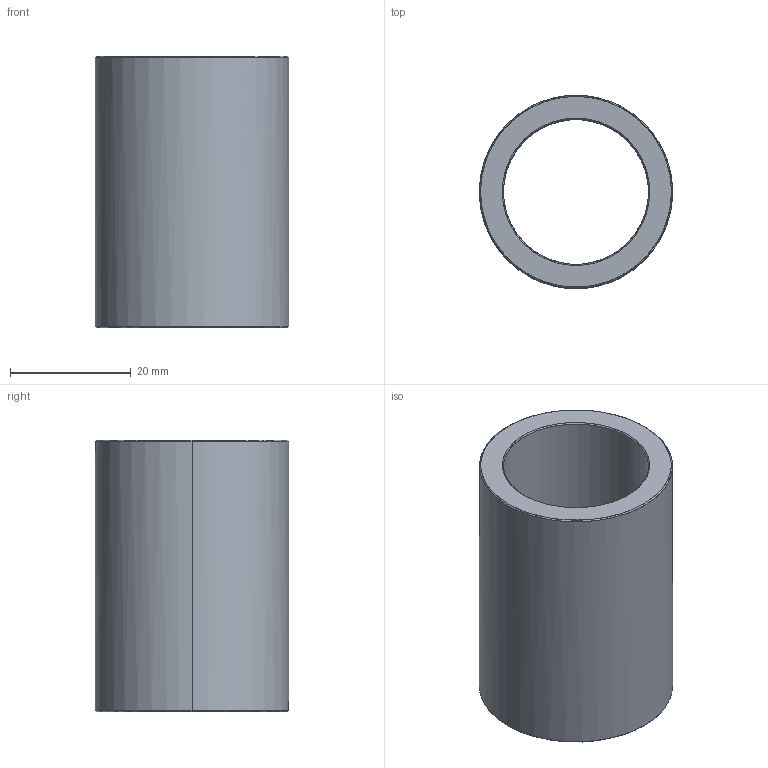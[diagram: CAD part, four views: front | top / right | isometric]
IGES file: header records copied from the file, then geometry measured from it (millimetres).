
Start section: Write IGES format                                    datakit 2008 (c)
Global section: file name: Unknown; native system: DATAKIT Converter; preprocessor: Unknown; author: Unknown; organization: Unknown; date: 950613.180003; units: millimetre
Bounding box: 32 x 31.97 x 45 mm (x, y, z)
Surface area: 8579.3 mm2 (no closed solid volume)
Topology: 0 solids, 0 shells, 14 faces, 56 edges, 56 vertices
Faces by surface type: revolution 12, bspline 2
